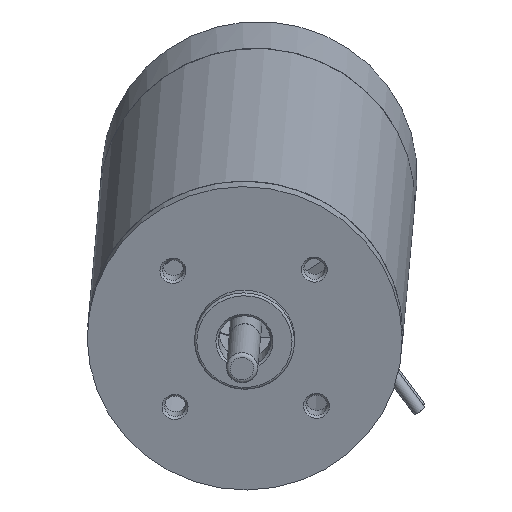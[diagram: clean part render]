
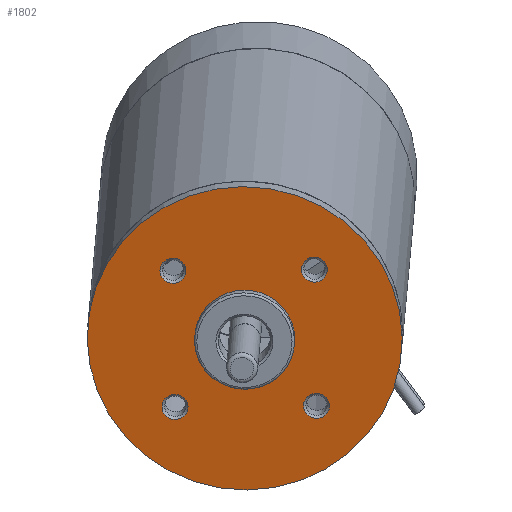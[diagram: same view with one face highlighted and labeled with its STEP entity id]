
A CAD part, top view. The second image highlights one B-rep face of the part: STEP entity #1802.
In plain terms, the highlighted planar face has unit normal (-0.024, -0.272, 0.962) as drawn and (0, 0, 1) by its records, which use the part's own axes.
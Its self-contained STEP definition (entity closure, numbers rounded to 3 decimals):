
#156=FACE_BOUND('',#346,.T.);
#157=FACE_BOUND('',#347,.T.);
#158=FACE_BOUND('',#348,.T.);
#159=FACE_BOUND('',#349,.T.);
#160=FACE_BOUND('',#350,.T.);
#186=PLANE('',#2096);
#234=FACE_OUTER_BOUND('',#345,.T.);
#345=EDGE_LOOP('',(#1249));
#346=EDGE_LOOP('',(#1250));
#347=EDGE_LOOP('',(#1251));
#348=EDGE_LOOP('',(#1252));
#349=EDGE_LOOP('',(#1253));
#350=EDGE_LOOP('',(#1254));
#692=CIRCLE('',#2095,1.65);
#693=CIRCLE('',#2097,20.);
#694=CIRCLE('',#2098,1.65);
#695=CIRCLE('',#2099,1.65);
#696=CIRCLE('',#2100,6.35);
#697=CIRCLE('',#2101,1.65);
#809=VERTEX_POINT('',#2955);
#810=VERTEX_POINT('',#2959);
#811=VERTEX_POINT('',#2961);
#812=VERTEX_POINT('',#2963);
#813=VERTEX_POINT('',#2965);
#814=VERTEX_POINT('',#2967);
#983=EDGE_CURVE('',#809,#809,#692,.T.);
#984=EDGE_CURVE('',#810,#810,#693,.T.);
#985=EDGE_CURVE('',#811,#811,#694,.T.);
#986=EDGE_CURVE('',#812,#812,#695,.T.);
#987=EDGE_CURVE('',#813,#813,#696,.T.);
#988=EDGE_CURVE('',#814,#814,#697,.T.);
#1249=ORIENTED_EDGE('',*,*,#984,.F.);
#1250=ORIENTED_EDGE('',*,*,#985,.F.);
#1251=ORIENTED_EDGE('',*,*,#986,.F.);
#1252=ORIENTED_EDGE('',*,*,#987,.T.);
#1253=ORIENTED_EDGE('',*,*,#988,.F.);
#1254=ORIENTED_EDGE('',*,*,#983,.F.);
#1802=ADVANCED_FACE('',(#234,#156,#157,#158,#159,#160),#186,.F.);
#2095=AXIS2_PLACEMENT_3D('',#2957,#2352,#2353);
#2096=AXIS2_PLACEMENT_3D('',#2958,#2354,#2355);
#2097=AXIS2_PLACEMENT_3D('',#2960,#2356,#2357);
#2098=AXIS2_PLACEMENT_3D('',#2962,#2358,#2359);
#2099=AXIS2_PLACEMENT_3D('',#2964,#2360,#2361);
#2100=AXIS2_PLACEMENT_3D('',#2966,#2362,#2363);
#2101=AXIS2_PLACEMENT_3D('',#2968,#2364,#2365);
#2352=DIRECTION('center_axis',(0.,0.,1.));
#2353=DIRECTION('ref_axis',(0.,-1.,0.));
#2354=DIRECTION('center_axis',(0.,0.,-1.));
#2355=DIRECTION('ref_axis',(-1.,0.,0.));
#2356=DIRECTION('center_axis',(0.,0.,-1.));
#2357=DIRECTION('ref_axis',(-1.,0.,0.));
#2358=DIRECTION('center_axis',(0.,0.,1.));
#2359=DIRECTION('ref_axis',(1.,0.,0.));
#2360=DIRECTION('center_axis',(0.,0.,1.));
#2361=DIRECTION('ref_axis',(-1.,0.,0.));
#2362=DIRECTION('center_axis',(0.,0.,-1.));
#2363=DIRECTION('ref_axis',(-1.,0.,0.));
#2364=DIRECTION('center_axis',(0.,0.,1.));
#2365=DIRECTION('ref_axis',(0.,1.,0.));
#2955=CARTESIAN_POINT('',(-8.98,-7.33,2.6));
#2957=CARTESIAN_POINT('Origin',(-8.98,-8.98,2.6));
#2958=CARTESIAN_POINT('Origin',(0.,0.,2.6));
#2959=CARTESIAN_POINT('',(20.,0.,2.6));
#2960=CARTESIAN_POINT('Origin',(0.,0.,2.6));
#2961=CARTESIAN_POINT('',(7.33,-8.98,2.6));
#2962=CARTESIAN_POINT('Origin',(8.98,-8.98,2.6));
#2963=CARTESIAN_POINT('',(-7.33,8.98,2.6));
#2964=CARTESIAN_POINT('Origin',(-8.98,8.98,2.6));
#2965=CARTESIAN_POINT('',(6.35,0.,2.6));
#2966=CARTESIAN_POINT('Origin',(0.,0.,2.6));
#2967=CARTESIAN_POINT('',(8.98,7.33,2.6));
#2968=CARTESIAN_POINT('Origin',(8.98,8.98,2.6));
